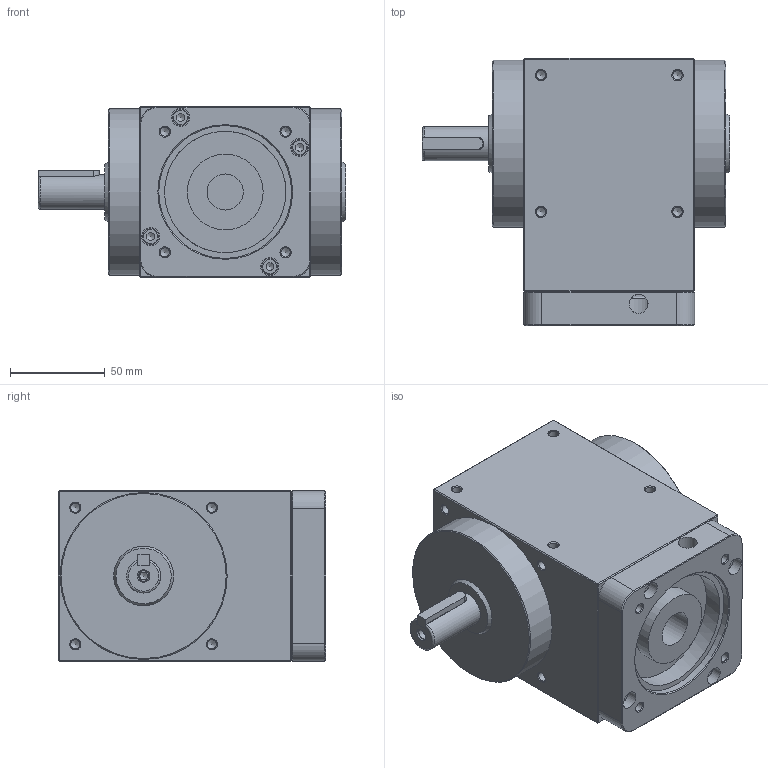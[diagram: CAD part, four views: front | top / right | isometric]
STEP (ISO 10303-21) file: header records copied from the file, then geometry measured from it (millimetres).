
FILE_DESCRIPTION((''),'2;1');
FILE_NAME('D:\유성\SBT 베벨기어박스\최종도면모음\3D\SBT090\SBT090MLS001K.stp','2014-05-20T10:34:23',('nagyu'),(''),'Autodesk Inventor 2013','Autodesk Inventor 2013','');
FILE_SCHEMA(('AUTOMOTIVE_DESIGN { 1 0 10303 214 1 1 1 1 }'));
Length unit declared in the file: millimetre
Products named in the file (1): SBT090MLS001K_Shrinkwrap_1
Bounding box: 162 x 141 x 90 mm (x, y, z)
Volume: 1295191.1 mm3; surface area: 94039.8 mm2
Topology: 1 solids, 5 shells, 267 faces, 657 edges, 393 vertices
Faces by surface type: plane 103, cylinder 79, cone 71, torus 9, bspline 5
Full cylindrical faces by diameter (mm): 4.134 x1, 4.917 x44, 5 x4, 5.5 x5, 6 x2, 8.5 x4, 9.5 x4, 10 x1, 18 x1, 19 x1, 40 x1, 64 x1, 70 x1, 88 x2
Entity records: 6799 total; most frequent: CARTESIAN_POINT 1403, DIRECTION 1160, ORIENTED_EDGE 884, AXIS2_PLACEMENT_3D 494, EDGE_CURVE 442, EDGE_LOOP 437, VERTEX_POINT 321, FACE_OUTER_BOUND 267
